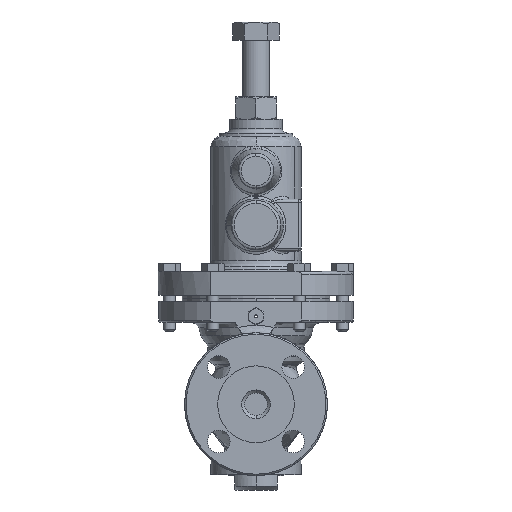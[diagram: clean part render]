
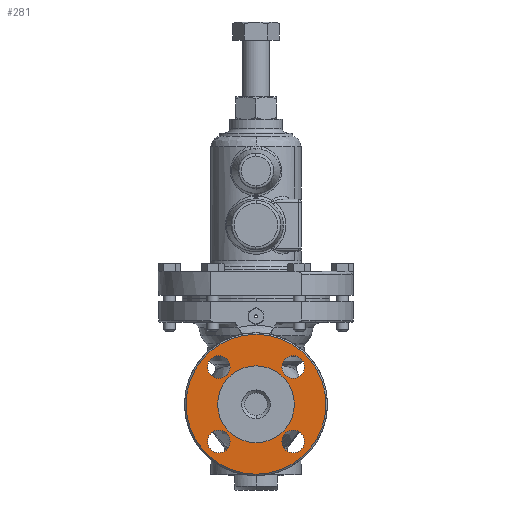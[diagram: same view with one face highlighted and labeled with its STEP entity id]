
A CAD part, left-side view. The second image highlights one B-rep face of the part: STEP entity #281.
In plain terms, the highlighted planar face has unit normal (-1, 0, 0).
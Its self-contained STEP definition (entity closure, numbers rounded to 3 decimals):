
#281=ADVANCED_FACE('',(#1978,#1979,#1980,#1981,#1982,#1983),#1977,.F.);
#1977=PLANE('',#14476);
#1978=FACE_OUTER_BOUND('',#14477,.T.);
#1979=FACE_BOUND('',#14478,.T.);
#1980=FACE_BOUND('',#14479,.T.);
#1981=FACE_BOUND('',#14480,.T.);
#1982=FACE_BOUND('',#14481,.T.);
#1983=FACE_BOUND('',#14482,.T.);
#14473=CARTESIAN_POINT('',(-71.5,-90.54,103.));
#14474=DIRECTION('',(1.,0.,0.));
#14475=DIRECTION('',(0.,0.,-1.));
#14476=AXIS2_PLACEMENT_3D('',#14473,#14474,#14475);
#14477=EDGE_LOOP('',(#25108,#25109));
#14478=EDGE_LOOP('',(#25110,#25111));
#14479=EDGE_LOOP('',(#25112,#25113));
#14480=EDGE_LOOP('',(#25114,#25115));
#14481=EDGE_LOOP('',(#25116,#25117));
#14482=EDGE_LOOP('',(#25118,#25119));
#25108=ORIENTED_EDGE('',*,*,#27413,.T.);
#25109=ORIENTED_EDGE('',*,*,#27414,.T.);
#25110=ORIENTED_EDGE('',*,*,#27415,.F.);
#25111=ORIENTED_EDGE('',*,*,#27416,.F.);
#25112=ORIENTED_EDGE('',*,*,#27417,.F.);
#25113=ORIENTED_EDGE('',*,*,#27418,.F.);
#25114=ORIENTED_EDGE('',*,*,#27419,.F.);
#25115=ORIENTED_EDGE('',*,*,#27420,.F.);
#25116=ORIENTED_EDGE('',*,*,#27421,.F.);
#25117=ORIENTED_EDGE('',*,*,#27422,.F.);
#25118=ORIENTED_EDGE('',*,*,#27423,.F.);
#25119=ORIENTED_EDGE('',*,*,#27424,.F.);
#27413=EDGE_CURVE('',#31277,#31278,#31279,.T.);
#27414=EDGE_CURVE('',#31278,#31277,#31285,.T.);
#27415=EDGE_CURVE('',#31291,#31292,#31293,.T.);
#27416=EDGE_CURVE('',#31292,#31291,#31299,.T.);
#27417=EDGE_CURVE('',#31305,#31306,#31307,.T.);
#27418=EDGE_CURVE('',#31306,#31305,#31313,.T.);
#27419=EDGE_CURVE('',#31319,#31320,#31321,.T.);
#27420=EDGE_CURVE('',#31320,#31319,#31327,.T.);
#27421=EDGE_CURVE('',#31333,#31334,#31335,.T.);
#27422=EDGE_CURVE('',#31334,#31333,#31341,.T.);
#27423=EDGE_CURVE('',#31347,#31348,#31349,.T.);
#27424=EDGE_CURVE('',#31348,#31347,#31355,.T.);
#31277=VERTEX_POINT('',#40031);
#31278=VERTEX_POINT('',#40032);
#31279=CIRCLE('',#40036,46.5);
#31285=CIRCLE('',#40040,46.5);
#31291=VERTEX_POINT('',#40041);
#31292=VERTEX_POINT('',#40042);
#31293=CIRCLE('',#40046,7.5);
#31299=CIRCLE('',#40050,7.5);
#31305=VERTEX_POINT('',#40051);
#31306=VERTEX_POINT('',#40052);
#31307=CIRCLE('',#40056,7.5);
#31313=CIRCLE('',#40060,7.5);
#31319=VERTEX_POINT('',#40061);
#31320=VERTEX_POINT('',#40062);
#31321=CIRCLE('',#40066,25.5);
#31327=CIRCLE('',#40070,25.5);
#31333=VERTEX_POINT('',#40071);
#31334=VERTEX_POINT('',#40072);
#31335=CIRCLE('',#40076,7.5);
#31341=CIRCLE('',#40080,7.5);
#31347=VERTEX_POINT('',#40081);
#31348=VERTEX_POINT('',#40082);
#31349=CIRCLE('',#40086,7.5);
#31355=CIRCLE('',#40090,7.5);
#40031=CARTESIAN_POINT('',(-71.5,0.,-46.5));
#40032=CARTESIAN_POINT('',(-71.5,0.,46.5));
#40033=CARTESIAN_POINT('',(-71.5,0.,0.));
#40034=DIRECTION('',(-1.,0.,0.));
#40035=DIRECTION('',(0.,0.,-1.));
#40036=AXIS2_PLACEMENT_3D('',#40033,#40034,#40035);
#40037=CARTESIAN_POINT('',(-71.5,0.,0.));
#40038=DIRECTION('',(-1.,0.,0.));
#40039=DIRECTION('',(0.,0.,-1.));
#40040=AXIS2_PLACEMENT_3D('',#40037,#40038,#40039);
#40041=CARTESIAN_POINT('',(-71.5,-24.749,-17.249));
#40042=CARTESIAN_POINT('',(-71.5,-24.749,-32.249));
#40043=CARTESIAN_POINT('',(-71.5,-24.749,-24.749));
#40044=DIRECTION('',(-1.,0.,0.));
#40045=DIRECTION('',(0.,0.,-1.));
#40046=AXIS2_PLACEMENT_3D('',#40043,#40044,#40045);
#40047=CARTESIAN_POINT('',(-71.5,-24.749,-24.749));
#40048=DIRECTION('',(-1.,0.,0.));
#40049=DIRECTION('',(0.,0.,-1.));
#40050=AXIS2_PLACEMENT_3D('',#40047,#40048,#40049);
#40051=CARTESIAN_POINT('',(-71.5,24.749,32.249));
#40052=CARTESIAN_POINT('',(-71.5,24.749,17.249));
#40053=CARTESIAN_POINT('',(-71.5,24.749,24.749));
#40054=DIRECTION('',(-1.,0.,0.));
#40055=DIRECTION('',(0.,0.,-1.));
#40056=AXIS2_PLACEMENT_3D('',#40053,#40054,#40055);
#40057=CARTESIAN_POINT('',(-71.5,24.749,24.749));
#40058=DIRECTION('',(-1.,0.,0.));
#40059=DIRECTION('',(0.,0.,-1.));
#40060=AXIS2_PLACEMENT_3D('',#40057,#40058,#40059);
#40061=CARTESIAN_POINT('',(-71.5,0.,-25.5));
#40062=CARTESIAN_POINT('',(-71.5,0.,25.5));
#40063=CARTESIAN_POINT('',(-71.5,0.,0.));
#40064=DIRECTION('',(-1.,0.,0.));
#40065=DIRECTION('',(0.,0.,1.));
#40066=AXIS2_PLACEMENT_3D('',#40063,#40064,#40065);
#40067=CARTESIAN_POINT('',(-71.5,0.,0.));
#40068=DIRECTION('',(-1.,0.,0.));
#40069=DIRECTION('',(0.,0.,1.));
#40070=AXIS2_PLACEMENT_3D('',#40067,#40068,#40069);
#40071=CARTESIAN_POINT('',(-71.5,24.749,-17.249));
#40072=CARTESIAN_POINT('',(-71.5,24.749,-32.249));
#40073=CARTESIAN_POINT('',(-71.5,24.749,-24.749));
#40074=DIRECTION('',(-1.,0.,0.));
#40075=DIRECTION('',(0.,0.,-1.));
#40076=AXIS2_PLACEMENT_3D('',#40073,#40074,#40075);
#40077=CARTESIAN_POINT('',(-71.5,24.749,-24.749));
#40078=DIRECTION('',(-1.,0.,0.));
#40079=DIRECTION('',(0.,0.,-1.));
#40080=AXIS2_PLACEMENT_3D('',#40077,#40078,#40079);
#40081=CARTESIAN_POINT('',(-71.5,-24.749,32.249));
#40082=CARTESIAN_POINT('',(-71.5,-24.749,17.249));
#40083=CARTESIAN_POINT('',(-71.5,-24.749,24.749));
#40084=DIRECTION('',(-1.,0.,0.));
#40085=DIRECTION('',(0.,0.,-1.));
#40086=AXIS2_PLACEMENT_3D('',#40083,#40084,#40085);
#40087=CARTESIAN_POINT('',(-71.5,-24.749,24.749));
#40088=DIRECTION('',(-1.,0.,0.));
#40089=DIRECTION('',(0.,0.,-1.));
#40090=AXIS2_PLACEMENT_3D('',#40087,#40088,#40089);
